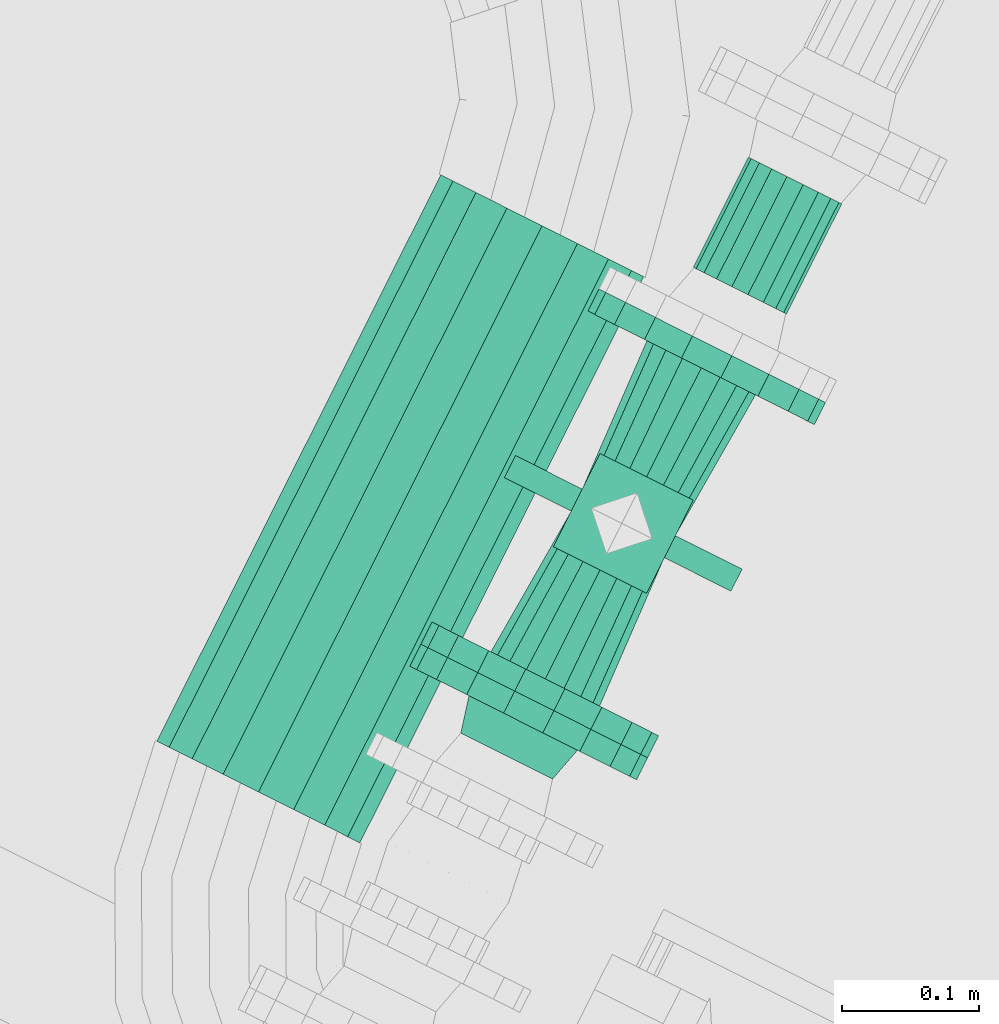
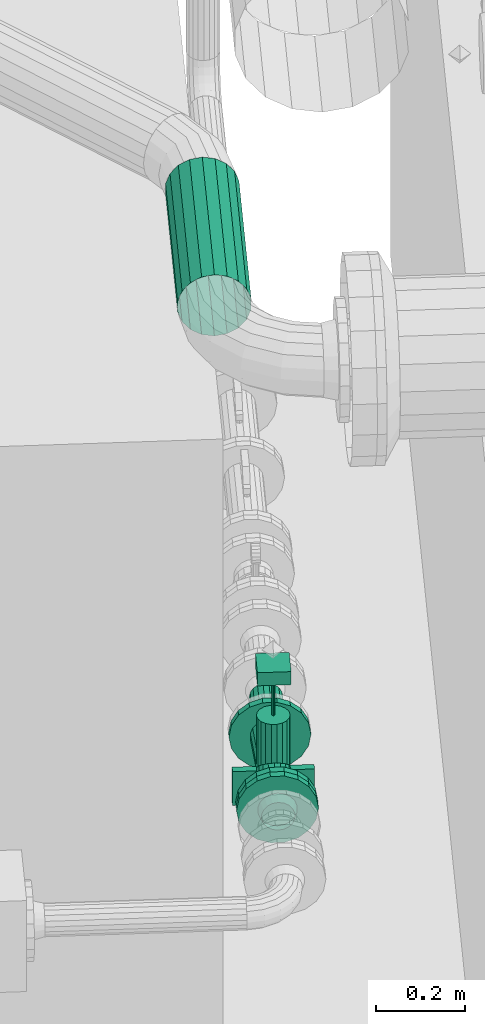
# One storey, part 107 of 206: 2 flow segments, 1 flow controller, 1 flow fitting.
"""IFC2X3 building model written with IfcOpenShell, lengths in metres."""

from ifc_helpers import new_model, si_unit, derived_unit, direction, frame, origin, place, context, subcontext, project, spatial, face_set, surface_model, source, transform, mapped, material, type_object, type_shapes, element, save


model = new_model("IFC2X3")

# Units and contexts
model_context = context("Model", 3, precision=5.2338327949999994e-05, world=origin(), true_north=direction((0.0, 1.0)))
body_context = subcontext(model_context, "Body", "Model", "MODEL_VIEW")
ifc_project = project(units=[si_unit("LENGTHUNIT", "METRE"), si_unit("AREAUNIT", "SQUARE_METRE"), si_unit("VOLUMEUNIT", "CUBIC_METRE"), si_unit("MASSUNIT", "GRAM", prefix="KILO"), si_unit("PLANEANGLEUNIT", "RADIAN"), derived_unit("THERMALTRANSMITTANCEUNIT", [(si_unit("MASSUNIT", "GRAM", prefix="KILO"), 1), (si_unit("THERMODYNAMICTEMPERATUREUNIT", "KELVIN"), -1), (si_unit("TIMEUNIT", "SECOND"), -3)])], contexts=[model_context])

# Site, building, storey
site_placement = place(None, frame((0.0, 0.0, 0.0), z_axis=(0.0, 0.0, 1.0), x_axis=(0.8939966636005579, -0.4480736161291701, 0.0)))
site = spatial("IfcSite", under=ifc_project, at=site_placement, Name="Default", CompositionType="ELEMENT")
building_placement = place(site_placement, origin())
building = spatial("IfcBuilding", under=site, at=building_placement, CompositionType="ELEMENT")
storey_placement = place(building_placement, origin())
storey = spatial("IfcBuildingStorey", under=building, at=storey_placement, Name="Erdgeschoss", CompositionType="ELEMENT", Elevation=0.0)

# Flow fitting
ifc_material_1 = material(Name="IfcSurfaceStyle #352577")
distribution_element_type_1 = type_object("IfcDistributionElementType", Name="Flansch 357927:Flansch 357927", material=ifc_material_1)
shared_shape_1 = source(origin(), body_context, "Body", "SurfaceModel", [
    surface_model("IfcFaceBasedSurfaceModel", [(22.356766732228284, 5.20295839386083, 0.9080499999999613), (22.36978059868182, 5.2029583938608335, 0.9057553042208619), (22.372157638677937, 5.229958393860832, 0.9122861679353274), (22.35676673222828, 5.229958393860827, 0.9149999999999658), (22.381224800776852, 5.2029583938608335, 0.899147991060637), (22.38569217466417, 5.229958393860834, 0.9044719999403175), (22.38971899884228, 5.202958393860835, 0.8890249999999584), (22.39573787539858, 5.229958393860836, 0.8924999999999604), (22.39423866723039, 5.202958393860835, 0.8766073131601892), (22.401083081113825, 5.229958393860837, 0.8778141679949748), (22.3942386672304, 5.202958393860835, 0.8633926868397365), (22.40108308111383, 5.229958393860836, 0.8621858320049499), (22.38971899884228, 5.202958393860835, 0.85097499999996), (22.39573787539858, 5.2299583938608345, 0.8474999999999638), (22.38122480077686, 5.2029583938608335, 0.8408520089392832), (22.38569217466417, 5.229958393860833, 0.835528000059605), (22.369780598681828, 5.2029583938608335, 0.8342446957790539), (22.372157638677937, 5.229958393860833, 0.8277138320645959), (22.356766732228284, 5.20295839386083, 0.8319499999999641), (22.356766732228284, 5.229958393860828, 0.8249999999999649), (22.34375286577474, 5.20295839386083, 0.8342446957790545), (22.341375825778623, 5.2299583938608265, 0.8277138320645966), (22.33230866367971, 5.202958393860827, 0.8408520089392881), (22.327841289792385, 5.229958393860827, 0.8355280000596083), (22.323814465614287, 5.202958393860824, 0.8509749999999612), (22.31779558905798, 5.229958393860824, 0.8474999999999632), (22.31929479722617, 5.202958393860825, 0.8633926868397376), (22.312450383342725, 5.229958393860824, 0.8621858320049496), (22.319294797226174, 5.2029583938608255, 0.8766073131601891), (22.31245038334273, 5.229958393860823, 0.8778141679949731), (22.323814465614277, 5.202958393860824, 0.8890249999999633), (22.317795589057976, 5.229958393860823, 0.8924999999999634), (22.33230866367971, 5.202958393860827, 0.8991479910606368), (22.327841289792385, 5.229958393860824, 0.9044719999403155), (22.343752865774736, 5.202958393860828, 0.9057553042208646), (22.341375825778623, 5.2299583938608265, 0.9122861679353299), (22.26426673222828, 5.229958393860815, 0.8699999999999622), (22.269845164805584, 5.229958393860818, 0.9016368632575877), (22.269845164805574, 5.247958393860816, 0.9016368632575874), (22.264266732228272, 5.247958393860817, 0.8699999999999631), (22.28590762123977, 5.2299583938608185, 0.9294578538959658), (22.285907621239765, 5.247958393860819, 0.9294578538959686), (22.310516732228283, 5.229958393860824, 0.9501073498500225), (22.310516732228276, 5.247958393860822, 0.9501073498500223), (22.34070427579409, 5.2299583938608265, 0.9610947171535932), (22.340704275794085, 5.247958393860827, 0.9610947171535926), (22.37282918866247, 5.229958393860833, 0.9610947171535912), (22.372829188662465, 5.2479583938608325, 0.9610947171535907), (22.403016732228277, 5.229958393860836, 0.9501073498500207), (22.403016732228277, 5.247958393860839, 0.95010734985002), (22.427625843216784, 5.22995839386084, 0.9294578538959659), (22.427625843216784, 5.24795839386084, 0.9294578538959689), (22.443688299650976, 5.2299583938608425, 0.9016368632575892), (22.443688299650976, 5.247958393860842, 0.901636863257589), (22.449266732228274, 5.229958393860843, 0.8699999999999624), (22.449266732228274, 5.247958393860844, 0.8699999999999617), (22.443688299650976, 5.229958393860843, 0.8383631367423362), (22.44368829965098, 5.247958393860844, 0.838363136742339), (22.427625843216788, 5.229958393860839, 0.810542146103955), (22.42762584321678, 5.247958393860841, 0.810542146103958), (22.403016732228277, 5.229958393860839, 0.7898926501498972), (22.403016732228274, 5.247958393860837, 0.7898926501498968), (22.372829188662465, 5.229958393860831, 0.7789052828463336), (22.372829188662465, 5.2479583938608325, 0.7789052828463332), (22.34070427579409, 5.229958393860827, 0.7789052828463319), (22.34070427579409, 5.247958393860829, 0.7789052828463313), (22.310516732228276, 5.229958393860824, 0.7898926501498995), (22.310516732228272, 5.247958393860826, 0.7898926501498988), (22.285907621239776, 5.229958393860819, 0.8105421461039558), (22.28590762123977, 5.24795839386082, 0.8105421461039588), (22.269845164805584, 5.229958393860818, 0.8383631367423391), (22.269845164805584, 5.247958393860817, 0.8383631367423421), (22.356766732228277, 5.229958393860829, 0.8699999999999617)], [face_set([[[0, 1, 2, 3]], [[1, 4, 5, 2]], [[4, 6, 7, 5]], [[6, 8, 9, 7]], [[8, 10, 11, 9]], [[10, 12, 13, 11]], [[12, 14, 15, 13]], [[14, 16, 17, 15]], [[16, 18, 19, 17]], [[18, 20, 21, 19]], [[20, 22, 23, 21]], [[22, 24, 25, 23]], [[24, 26, 27, 25]], [[26, 28, 29, 27]], [[28, 30, 31, 29]], [[30, 32, 33, 31]], [[32, 34, 35, 33]], [[34, 0, 3, 35]], [[36, 37, 38, 39]], [[37, 40, 41, 38]], [[40, 42, 43, 41]], [[42, 44, 45, 43]], [[44, 46, 47, 45]], [[46, 48, 49, 47]], [[48, 50, 51, 49]], [[50, 52, 53, 51]], [[52, 54, 55, 53]], [[54, 56, 57, 55]], [[56, 58, 59, 57]], [[58, 60, 61, 59]], [[60, 62, 63, 61]], [[62, 64, 65, 63]], [[64, 66, 67, 65]], [[66, 68, 69, 67]], [[68, 70, 71, 69]], [[70, 36, 39, 71]], [[72, 37, 36]], [[72, 40, 37]], [[72, 42, 40]], [[72, 44, 42]], [[72, 46, 44]], [[72, 48, 46]], [[72, 50, 48]], [[72, 52, 50]], [[72, 54, 52]], [[72, 56, 54]], [[72, 58, 56]], [[72, 60, 58]], [[72, 62, 60]], [[72, 64, 62]], [[72, 66, 64]], [[72, 68, 66]], [[72, 70, 68]], [[72, 36, 70]]])]),
])
type_shapes(distribution_element_type_1, [shared_shape_1])
flow_fitting_placement = place(storey_placement, origin())
element("IfcFlowFitting", 1, at=flow_fitting_placement, inside=storey, type_object=distribution_element_type_1, material=ifc_material_1, Name="Flansch", ObjectType="Flansch", context=body_context, shape_type="MappedRepresentation", body=[
    mapped(shared_shape_1, transform((0.0, 0.0, 0.0), scale=1.0)),
])

# Flow controller
distribution_element_type_2 = type_object("IfcDistributionElementType", Name="Schieber:Schieber", material=ifc_material_1)
shared_shape_2 = source(origin(), body_context, "Body", "SurfaceModel", [
    surface_model("IfcFaceBasedSurfaceModel", [(22.318716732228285, 5.4310083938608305, 1.1239999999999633), (22.318716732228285, 5.35490839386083, 1.1239999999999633), (22.394816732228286, 5.35490839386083, 1.1239999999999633), (22.394816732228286, 5.4310083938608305, 1.1239999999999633), (22.394816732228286, 5.35490839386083, 1.1599999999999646), (22.394816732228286, 5.4310083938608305, 1.1599999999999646), (22.318716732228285, 5.35490839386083, 1.1599999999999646), (22.318716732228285, 5.4310083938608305, 1.1599999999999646), (22.449266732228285, 5.537958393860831, 0.8699999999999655), (22.44368829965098, 5.537958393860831, 0.9016368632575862), (22.44368829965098, 5.519958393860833, 0.9016368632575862), (22.449266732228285, 5.519958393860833, 0.8699999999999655), (22.427625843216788, 5.537958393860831, 0.9294578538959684), (22.427625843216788, 5.519958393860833, 0.9294578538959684), (22.40301673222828, 5.537958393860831, 0.9501073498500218), (22.40301673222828, 5.519958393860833, 0.9501073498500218), (22.372829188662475, 5.537958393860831, 0.961094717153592), (22.372829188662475, 5.519958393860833, 0.961094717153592), (22.340704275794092, 5.537958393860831, 0.9610947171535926), (22.340704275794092, 5.519958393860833, 0.9610947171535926), (22.310516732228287, 5.537958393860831, 0.9501073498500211), (22.310516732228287, 5.519958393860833, 0.9501073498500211), (22.28590762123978, 5.537958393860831, 0.9294578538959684), (22.28590762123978, 5.519958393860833, 0.9294578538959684), (22.269845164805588, 5.537958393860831, 0.9016368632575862), (22.269845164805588, 5.519958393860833, 0.9016368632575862), (22.264266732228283, 5.537958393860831, 0.8699999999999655), (22.264266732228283, 5.519958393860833, 0.8699999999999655), (22.269845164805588, 5.537958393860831, 0.8383631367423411), (22.269845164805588, 5.519958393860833, 0.8383631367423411), (22.28590762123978, 5.537958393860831, 0.8105421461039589), (22.28590762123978, 5.519958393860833, 0.8105421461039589), (22.310516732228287, 5.537958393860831, 0.7898926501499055), (22.310516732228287, 5.519958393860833, 0.7898926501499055), (22.340704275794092, 5.537958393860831, 0.7789052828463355), (22.340704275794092, 5.519958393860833, 0.7789052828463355), (22.372829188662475, 5.537958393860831, 0.7789052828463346), (22.372829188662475, 5.519958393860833, 0.7789052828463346), (22.40301673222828, 5.537958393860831, 0.7898926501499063), (22.40301673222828, 5.519958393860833, 0.7898926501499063), (22.427625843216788, 5.537958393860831, 0.8105421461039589), (22.427625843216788, 5.519958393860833, 0.8105421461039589), (22.44368829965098, 5.537958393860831, 0.8383631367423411), (22.44368829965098, 5.519958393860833, 0.8383631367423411), (22.356766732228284, 5.53795839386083, 0.8699999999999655), (22.356766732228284, 5.519958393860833, 0.8699999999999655), (22.356766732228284, 5.519958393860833, 0.8249999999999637), (22.37215763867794, 5.519958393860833, 0.827713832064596), (22.369780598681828, 5.392958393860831, 0.834244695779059), (22.356766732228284, 5.392958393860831, 0.8319499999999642), (22.38569217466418, 5.519958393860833, 0.8355280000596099), (22.38122480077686, 5.392958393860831, 0.8408520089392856), (22.395737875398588, 5.519958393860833, 0.8474999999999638), (22.38971899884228, 5.392958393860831, 0.8509749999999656), (22.401083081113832, 5.519958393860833, 0.8621858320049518), (22.3942386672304, 5.392958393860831, 0.8633926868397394), (22.401083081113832, 5.519958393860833, 0.8778141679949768), (22.3942386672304, 5.392958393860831, 0.8766073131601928), (22.395737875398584, 5.519958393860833, 0.8924999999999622), (22.38971899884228, 5.392958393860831, 0.8890249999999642), (22.38569217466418, 5.519958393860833, 0.9044719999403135), (22.38122480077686, 5.392958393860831, 0.8991479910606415), (22.37215763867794, 5.519958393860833, 0.9122861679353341), (22.36978059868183, 5.392958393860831, 0.9057553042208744), (22.356766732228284, 5.519958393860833, 0.9149999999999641), (22.356766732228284, 5.392958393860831, 0.9080499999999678), (22.341375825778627, 5.519958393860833, 0.9122861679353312), (22.34375286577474, 5.392958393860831, 0.9057553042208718), (22.32784128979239, 5.519958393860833, 0.904471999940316), (22.33230866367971, 5.392958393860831, 0.899147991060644), (22.317795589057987, 5.519958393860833, 0.8924999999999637), (22.323814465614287, 5.392958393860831, 0.8890249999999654), (22.312450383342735, 5.519958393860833, 0.8778141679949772), (22.31929479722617, 5.392958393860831, 0.8766073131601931), (22.312450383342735, 5.519958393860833, 0.8621858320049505), (22.31929479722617, 5.392958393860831, 0.8633926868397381), (22.317795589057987, 5.519958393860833, 0.8474999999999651), (22.323814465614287, 5.392958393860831, 0.8509749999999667), (22.32784128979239, 5.519958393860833, 0.8355280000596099), (22.33230866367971, 5.392958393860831, 0.8408520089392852), (22.341375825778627, 5.519958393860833, 0.8277138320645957), (22.34375286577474, 5.392958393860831, 0.834244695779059), (22.37215763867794, 5.265958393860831, 0.8277138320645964), (22.356766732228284, 5.265958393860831, 0.8249999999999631), (22.38569217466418, 5.265958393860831, 0.8355280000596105), (22.39573787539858, 5.265958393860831, 0.8474999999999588), (22.401083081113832, 5.265958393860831, 0.8621858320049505), (22.401083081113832, 5.265958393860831, 0.8778141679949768), (22.39573787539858, 5.265958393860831, 0.8924999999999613), (22.385692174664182, 5.265958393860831, 0.9044719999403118), (22.37215763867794, 5.265958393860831, 0.9122861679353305), (22.356766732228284, 5.265958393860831, 0.9149999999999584), (22.341375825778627, 5.265958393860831, 0.9122861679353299), (22.32784128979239, 5.265958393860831, 0.9044719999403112), (22.317795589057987, 5.265958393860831, 0.8924999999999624), (22.312450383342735, 5.265958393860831, 0.8778141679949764), (22.312450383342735, 5.265958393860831, 0.8621858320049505), (22.317795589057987, 5.265958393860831, 0.8474999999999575), (22.32784128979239, 5.265958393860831, 0.8355280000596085), (22.341375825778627, 5.265958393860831, 0.8277138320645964), (22.449266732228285, 5.265958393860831, 0.8699999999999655), (22.44368829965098, 5.265958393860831, 0.9016368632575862), (22.44368829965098, 5.247958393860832, 0.9016368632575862), (22.449266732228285, 5.247958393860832, 0.8699999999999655), (22.427625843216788, 5.265958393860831, 0.9294578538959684), (22.427625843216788, 5.247958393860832, 0.9294578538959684), (22.40301673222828, 5.265958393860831, 0.9501073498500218), (22.40301673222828, 5.247958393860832, 0.9501073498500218), (22.372829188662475, 5.265958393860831, 0.961094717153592), (22.372829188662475, 5.247958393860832, 0.961094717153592), (22.340704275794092, 5.265958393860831, 0.9610947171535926), (22.340704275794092, 5.247958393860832, 0.9610947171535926), (22.310516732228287, 5.265958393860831, 0.9501073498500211), (22.310516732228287, 5.247958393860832, 0.9501073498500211), (22.28590762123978, 5.265958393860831, 0.9294578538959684), (22.28590762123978, 5.247958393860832, 0.9294578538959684), (22.269845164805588, 5.265958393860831, 0.9016368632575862), (22.269845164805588, 5.247958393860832, 0.9016368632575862), (22.264266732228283, 5.265958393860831, 0.8699999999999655), (22.264266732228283, 5.247958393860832, 0.8699999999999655), (22.269845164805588, 5.265958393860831, 0.8383631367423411), (22.269845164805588, 5.247958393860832, 0.8383631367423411), (22.28590762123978, 5.265958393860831, 0.8105421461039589), (22.28590762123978, 5.247958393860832, 0.8105421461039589), (22.310516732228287, 5.265958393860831, 0.7898926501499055), (22.310516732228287, 5.247958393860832, 0.7898926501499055), (22.340704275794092, 5.265958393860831, 0.7789052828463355), (22.340704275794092, 5.247958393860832, 0.7789052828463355), (22.372829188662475, 5.265958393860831, 0.7789052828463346), (22.372829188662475, 5.247958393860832, 0.7789052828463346), (22.40301673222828, 5.265958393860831, 0.7898926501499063), (22.40301673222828, 5.247958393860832, 0.7898926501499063), (22.427625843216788, 5.265958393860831, 0.8105421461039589), (22.427625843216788, 5.247958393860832, 0.8105421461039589), (22.44368829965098, 5.265958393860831, 0.8383631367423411), (22.44368829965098, 5.247958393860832, 0.8383631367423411), (22.356766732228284, 5.265958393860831, 0.8699999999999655), (22.356766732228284, 5.247958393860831, 0.8699999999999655), (22.39481673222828, 5.39295839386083, 0.869999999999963), (22.392522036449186, 5.405972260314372, 0.869999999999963), (22.392522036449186, 5.405972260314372, 1.0160249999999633), (22.39481673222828, 5.39295839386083, 1.0160249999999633), (22.385914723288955, 5.417416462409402, 0.869999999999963), (22.385914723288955, 5.417416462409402, 1.0160249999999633), (22.375791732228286, 5.4259106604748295, 0.869999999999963), (22.375791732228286, 5.4259106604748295, 1.0160249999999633), (22.36337404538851, 5.430430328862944, 0.869999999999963), (22.36337404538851, 5.430430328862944, 1.0160249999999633), (22.350159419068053, 5.430430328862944, 0.869999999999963), (22.350159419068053, 5.430430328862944, 1.0160249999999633), (22.33774173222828, 5.4259106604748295, 0.869999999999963), (22.33774173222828, 5.4259106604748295, 1.0160249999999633), (22.32761874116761, 5.417416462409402, 0.869999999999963), (22.32761874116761, 5.417416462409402, 1.0160249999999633), (22.32101142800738, 5.405972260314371, 0.869999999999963), (22.32101142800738, 5.405972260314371, 1.0160249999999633), (22.31871673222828, 5.39295839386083, 0.869999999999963), (22.31871673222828, 5.39295839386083, 1.0160249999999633), (22.321011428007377, 5.379944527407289, 0.869999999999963), (22.321011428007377, 5.379944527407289, 1.0160249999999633), (22.32761874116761, 5.36850032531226, 0.869999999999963), (22.32761874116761, 5.36850032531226, 1.0160249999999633), (22.33774173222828, 5.360006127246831, 0.869999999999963), (22.33774173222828, 5.360006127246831, 1.0160249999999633), (22.350159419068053, 5.3554864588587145, 0.869999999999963), (22.350159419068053, 5.3554864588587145, 1.0160249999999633), (22.36337404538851, 5.355486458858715, 0.869999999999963), (22.36337404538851, 5.355486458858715, 1.0160249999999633), (22.375791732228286, 5.360006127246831, 0.869999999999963), (22.375791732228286, 5.360006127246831, 1.0160249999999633), (22.385914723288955, 5.368500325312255, 0.869999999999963), (22.385914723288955, 5.368500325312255, 1.0160249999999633), (22.392522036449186, 5.379944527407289, 0.869999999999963), (22.392522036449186, 5.379944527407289, 1.0160249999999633), (22.356766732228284, 5.392958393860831, 0.8699999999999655), (22.356766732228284, 5.39295839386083, 1.016024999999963), (22.36057173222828, 5.3929583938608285, 1.0160249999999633), (22.359457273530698, 5.395648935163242, 1.0160249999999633), (22.359457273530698, 5.395648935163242, 1.1239999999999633), (22.36057173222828, 5.3929583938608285, 1.1239999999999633), (22.356766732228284, 5.396763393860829, 1.0160249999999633), (22.356766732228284, 5.396763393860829, 1.1239999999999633), (22.35407619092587, 5.395648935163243, 1.0160249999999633), (22.35407619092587, 5.395648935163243, 1.1239999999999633), (22.352961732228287, 5.3929583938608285, 1.0160249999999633), (22.352961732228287, 5.392958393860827, 1.1239999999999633), (22.35407619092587, 5.390267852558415, 1.0160249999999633), (22.35407619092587, 5.390267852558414, 1.1239999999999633), (22.356766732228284, 5.3891533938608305, 1.0160249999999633), (22.356766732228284, 5.3891533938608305, 1.1239999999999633), (22.359457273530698, 5.390267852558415, 1.0160249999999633), (22.359457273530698, 5.390267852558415, 1.1239999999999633), (22.356766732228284, 5.39295839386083, 1.1239999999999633), (22.264266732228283, 5.401958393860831, 0.7774999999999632), (22.264266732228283, 5.38395839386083, 0.7774999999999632), (22.449266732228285, 5.38395839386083, 0.7774999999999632), (22.449266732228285, 5.401958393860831, 0.7774999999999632), (22.449266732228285, 5.38395839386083, 0.869999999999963), (22.449266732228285, 5.401958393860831, 0.869999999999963), (22.264266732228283, 5.38395839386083, 0.869999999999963), (22.264266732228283, 5.401958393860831, 0.869999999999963)], [face_set([[[0, 1, 2, 3]], [[3, 2, 4, 5]], [[5, 4, 6, 7]], [[7, 6, 1, 0]], [[0, 3, 5, 7]], [[6, 4, 2, 1]], [[8, 9, 10, 11]], [[9, 12, 13, 10]], [[12, 14, 15, 13]], [[14, 16, 17, 15]], [[16, 18, 19, 17]], [[18, 20, 21, 19]], [[20, 22, 23, 21]], [[22, 24, 25, 23]], [[24, 26, 27, 25]], [[26, 28, 29, 27]], [[28, 30, 31, 29]], [[30, 32, 33, 31]], [[32, 34, 35, 33]], [[34, 36, 37, 35]], [[36, 38, 39, 37]], [[38, 40, 41, 39]], [[40, 42, 43, 41]], [[42, 8, 11, 43]], [[44, 9, 8]], [[44, 12, 9]], [[44, 14, 12]], [[44, 16, 14]], [[44, 18, 16]], [[44, 20, 18]], [[44, 22, 20]], [[44, 24, 22]], [[44, 26, 24]], [[44, 28, 26]], [[44, 30, 28]], [[44, 32, 30]], [[44, 34, 32]], [[44, 36, 34]], [[44, 38, 36]], [[44, 40, 38]], [[44, 42, 40]], [[44, 8, 42]], [[45, 43, 11]], [[45, 41, 43]], [[45, 39, 41]], [[45, 37, 39]], [[45, 35, 37]], [[45, 33, 35]], [[45, 31, 33]], [[45, 29, 31]], [[45, 27, 29]], [[45, 25, 27]], [[45, 23, 25]], [[45, 21, 23]], [[45, 19, 21]], [[45, 17, 19]], [[45, 15, 17]], [[45, 13, 15]], [[45, 10, 13]], [[45, 11, 10]], [[46, 47, 48, 49]], [[47, 50, 51, 48]], [[50, 52, 53, 51]], [[52, 54, 55, 53]], [[54, 56, 57, 55]], [[56, 58, 59, 57]], [[58, 60, 61, 59]], [[60, 62, 63, 61]], [[62, 64, 65, 63]], [[64, 66, 67, 65]], [[66, 68, 69, 67]], [[68, 70, 71, 69]], [[70, 72, 73, 71]], [[72, 74, 75, 73]], [[74, 76, 77, 75]], [[76, 78, 79, 77]], [[78, 80, 81, 79]], [[80, 46, 49, 81]], [[49, 48, 82, 83]], [[48, 51, 84, 82]], [[51, 53, 85, 84]], [[53, 55, 86, 85]], [[55, 57, 87, 86]], [[57, 59, 88, 87]], [[59, 61, 89, 88]], [[61, 63, 90, 89]], [[63, 65, 91, 90]], [[65, 67, 92, 91]], [[67, 69, 93, 92]], [[69, 71, 94, 93]], [[71, 73, 95, 94]], [[73, 75, 96, 95]], [[75, 77, 97, 96]], [[77, 79, 98, 97]], [[79, 81, 99, 98]], [[81, 49, 83, 99]], [[100, 101, 102, 103]], [[101, 104, 105, 102]], [[104, 106, 107, 105]], [[106, 108, 109, 107]], [[108, 110, 111, 109]], [[110, 112, 113, 111]], [[112, 114, 115, 113]], [[114, 116, 117, 115]], [[116, 118, 119, 117]], [[118, 120, 121, 119]], [[120, 122, 123, 121]], [[122, 124, 125, 123]], [[124, 126, 127, 125]], [[126, 128, 129, 127]], [[128, 130, 131, 129]], [[130, 132, 133, 131]], [[132, 134, 135, 133]], [[134, 100, 103, 135]], [[136, 101, 100]], [[136, 104, 101]], [[136, 106, 104]], [[136, 108, 106]], [[136, 110, 108]], [[136, 112, 110]], [[136, 114, 112]], [[136, 116, 114]], [[136, 118, 116]], [[136, 120, 118]], [[136, 122, 120]], [[136, 124, 122]], [[136, 126, 124]], [[136, 128, 126]], [[136, 130, 128]], [[136, 132, 130]], [[136, 134, 132]], [[136, 100, 134]], [[137, 135, 103]], [[137, 133, 135]], [[137, 131, 133]], [[137, 129, 131]], [[137, 127, 129]], [[137, 125, 127]], [[137, 123, 125]], [[137, 121, 123]], [[137, 119, 121]], [[137, 117, 119]], [[137, 115, 117]], [[137, 113, 115]], [[137, 111, 113]], [[137, 109, 111]], [[137, 107, 109]], [[137, 105, 107]], [[137, 102, 105]], [[137, 103, 102]], [[138, 139, 140, 141]], [[139, 142, 143, 140]], [[142, 144, 145, 143]], [[144, 146, 147, 145]], [[146, 148, 149, 147]], [[148, 150, 151, 149]], [[150, 152, 153, 151]], [[152, 154, 155, 153]], [[154, 156, 157, 155]], [[156, 158, 159, 157]], [[158, 160, 161, 159]], [[160, 162, 163, 161]], [[162, 164, 165, 163]], [[164, 166, 167, 165]], [[166, 168, 169, 167]], [[168, 170, 171, 169]], [[170, 172, 173, 171]], [[172, 138, 141, 173]], [[174, 139, 138]], [[174, 142, 139]], [[174, 144, 142]], [[174, 146, 144]], [[174, 148, 146]], [[174, 150, 148]], [[174, 152, 150]], [[174, 154, 152]], [[174, 156, 154]], [[174, 158, 156]], [[174, 160, 158]], [[174, 162, 160]], [[174, 164, 162]], [[174, 166, 164]], [[174, 168, 166]], [[174, 170, 168]], [[174, 172, 170]], [[174, 138, 172]], [[175, 173, 141]], [[175, 171, 173]], [[175, 169, 171]], [[175, 167, 169]], [[175, 165, 167]], [[175, 163, 165]], [[175, 161, 163]], [[175, 159, 161]], [[175, 157, 159]], [[175, 155, 157]], [[175, 153, 155]], [[175, 151, 153]], [[175, 149, 151]], [[175, 147, 149]], [[175, 145, 147]], [[175, 143, 145]], [[175, 140, 143]], [[175, 141, 140]], [[176, 177, 178, 179]], [[177, 180, 181, 178]], [[180, 182, 183, 181]], [[182, 184, 185, 183]], [[184, 186, 187, 185]], [[186, 188, 189, 187]], [[188, 190, 191, 189]], [[190, 176, 179, 191]], [[192, 191, 179]], [[192, 189, 191]], [[192, 187, 189]], [[192, 185, 187]], [[192, 183, 185]], [[192, 181, 183]], [[192, 178, 181]], [[192, 179, 178]], [[193, 194, 195, 196]], [[196, 195, 197, 198]], [[198, 197, 199, 200]], [[200, 199, 194, 193]], [[193, 196, 198, 200]], [[199, 197, 195, 194]]])]),
])
type_shapes(distribution_element_type_2, [shared_shape_2])
flow_controller_placement = place(storey_placement, origin())
element("IfcFlowController", 2, at=flow_controller_placement, inside=storey, type_object=distribution_element_type_2, material=ifc_material_1, Name="Schieber", ObjectType="Schieber", context=body_context, shape_type="MappedRepresentation", body=[
    mapped(shared_shape_2, transform((0.0, 0.0, 0.0), scale=1.0)),
])

# Flow segments
distribution_element_type_3 = type_object("IfcDistributionElementType", Name="Stahlrohr nach DIN 2448 358666:Stahlrohr nach DIN 2448 358666", material=ifc_material_1)
shared_shape_3 = source(origin(), body_context, "Body", "SurfaceModel", [
    surface_model("IfcFaceBasedSurfaceModel", [(22.39481673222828, 5.672958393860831, 0.8699999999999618), (22.392522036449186, 5.672958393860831, 0.8830138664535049), (22.392522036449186, 5.582958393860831, 0.8830138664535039), (22.39481673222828, 5.582958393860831, 0.8699999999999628), (22.385914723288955, 5.672958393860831, 0.8944580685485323), (22.385914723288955, 5.582958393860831, 0.8944580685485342), (22.375791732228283, 5.672958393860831, 0.902952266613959), (22.375791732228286, 5.582958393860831, 0.902952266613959), (22.36337404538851, 5.672958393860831, 0.9074719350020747), (22.36337404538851, 5.582958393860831, 0.9074719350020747), (22.350159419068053, 5.672958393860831, 0.9074719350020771), (22.350159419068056, 5.582958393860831, 0.9074719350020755), (22.33774173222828, 5.672958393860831, 0.9029522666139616), (22.33774173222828, 5.582958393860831, 0.9029522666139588), (22.327618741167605, 5.672958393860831, 0.8944580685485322), (22.32761874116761, 5.582958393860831, 0.8944580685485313), (22.321011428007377, 5.672958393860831, 0.8830138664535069), (22.321011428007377, 5.582958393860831, 0.8830138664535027), (22.31871673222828, 5.672958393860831, 0.8699999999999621), (22.318716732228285, 5.582958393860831, 0.8699999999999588), (22.321011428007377, 5.672958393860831, 0.856986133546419), (22.32101142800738, 5.582958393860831, 0.8569861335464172), (22.327618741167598, 5.672958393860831, 0.8455419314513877), (22.327618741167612, 5.582958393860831, 0.8455419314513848), (22.33774173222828, 5.672958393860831, 0.8370477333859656), (22.33774173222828, 5.582958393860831, 0.8370477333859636), (22.350159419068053, 5.672958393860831, 0.8325280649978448), (22.350159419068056, 5.582958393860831, 0.8325280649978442), (22.36337404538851, 5.672958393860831, 0.8325280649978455), (22.363374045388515, 5.582958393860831, 0.8325280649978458), (22.375791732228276, 5.672958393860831, 0.8370477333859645), (22.37579173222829, 5.582958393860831, 0.837047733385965), (22.385914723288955, 5.672958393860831, 0.8455419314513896), (22.38591472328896, 5.582958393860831, 0.84554193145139), (22.392522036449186, 5.672958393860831, 0.8569861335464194), (22.392522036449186, 5.582958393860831, 0.8569861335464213)], [face_set([[[0, 1, 2, 3]], [[1, 4, 5, 2]], [[4, 6, 7, 5]], [[6, 8, 9, 7]], [[8, 10, 11, 9]], [[10, 12, 13, 11]], [[12, 14, 15, 13]], [[14, 16, 17, 15]], [[16, 18, 19, 17]], [[18, 20, 21, 19]], [[20, 22, 23, 21]], [[22, 24, 25, 23]], [[24, 26, 27, 25]], [[26, 28, 29, 27]], [[28, 30, 31, 29]], [[30, 32, 33, 31]], [[32, 34, 35, 33]], [[34, 0, 3, 35]]])]),
])
type_shapes(distribution_element_type_3, [shared_shape_3])
flow_segment_1_placement = place(storey_placement, origin())
element("IfcFlowSegment", 3, at=flow_segment_1_placement, inside=storey, type_object=distribution_element_type_3, material=ifc_material_1, Name="Stahlrohr nach DIN 2448", ObjectType="Stahlrohr nach DIN 2448", context=body_context, shape_type="MappedRepresentation", body=[
    mapped(shared_shape_3, transform((0.0, 0.0, 0.0), scale=1.0)),
])
ifc_material_2 = material(Name="IfcSurfaceStyle #9317")
distribution_element_type_4 = type_object("IfcDistributionElementType", Name="Stahlrohr nach DIN 2448 848518:Stahlrohr nach DIN 2448 848518", material=ifc_material_2)
shared_shape_4 = source(origin(), body_context, "Body", "SurfaceModel", [
    surface_model("IfcFaceBasedSurfaceModel", [(22.20652487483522, 5.560674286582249, 2.269850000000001), (22.23530586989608, 5.560674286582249, 2.2749248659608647), (22.23530586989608, 5.098312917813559, 2.2749248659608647), (22.206524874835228, 5.098312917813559, 2.2698500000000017), (22.260615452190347, 5.560674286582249, 2.2895373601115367), (22.260615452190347, 5.098312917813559, 2.2895373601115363), (22.279400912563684, 5.560674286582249, 2.311925), (22.279400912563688, 5.098312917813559, 2.3119250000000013), (22.289396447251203, 5.560674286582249, 2.339387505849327), (22.28939644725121, 5.098312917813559, 2.339387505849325), (22.289396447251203, 5.560674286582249, 2.3686124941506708), (22.289396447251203, 5.098312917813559, 2.3686124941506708), (22.279400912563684, 5.560674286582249, 2.3960749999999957), (22.279400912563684, 5.098312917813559, 2.3960749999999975), (22.260615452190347, 5.560674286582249, 2.418462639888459), (22.260615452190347, 5.098312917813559, 2.4184626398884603), (22.23530586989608, 5.560674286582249, 2.433075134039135), (22.23530586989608, 5.098312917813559, 2.433075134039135), (22.20652487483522, 5.560674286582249, 2.4381500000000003), (22.206524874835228, 5.0983129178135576, 2.43815), (22.17774387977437, 5.560674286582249, 2.433075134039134), (22.177743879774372, 5.0983129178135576, 2.4330751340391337), (22.152434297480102, 5.560674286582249, 2.418462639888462), (22.152434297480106, 5.098312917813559, 2.418462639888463), (22.13364883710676, 5.560674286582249, 2.396075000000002), (22.133648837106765, 5.098312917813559, 2.396075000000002), (22.123653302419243, 5.560674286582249, 2.368612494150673), (22.123653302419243, 5.098312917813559, 2.368612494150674), (22.123653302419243, 5.560674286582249, 2.339387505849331), (22.123653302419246, 5.098312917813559, 2.33938750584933), (22.133648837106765, 5.560674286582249, 2.311925), (22.133648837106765, 5.098312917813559, 2.311925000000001), (22.152434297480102, 5.560674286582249, 2.2895373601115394), (22.152434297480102, 5.098312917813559, 2.28953736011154), (22.177743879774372, 5.560674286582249, 2.2749248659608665), (22.177743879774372, 5.098312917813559, 2.2749248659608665)], [face_set([[[0, 1, 2, 3]], [[1, 4, 5, 2]], [[4, 6, 7, 5]], [[6, 8, 9, 7]], [[8, 10, 11, 9]], [[10, 12, 13, 11]], [[12, 14, 15, 13]], [[14, 16, 17, 15]], [[16, 18, 19, 17]], [[18, 20, 21, 19]], [[20, 22, 23, 21]], [[22, 24, 25, 23]], [[24, 26, 27, 25]], [[26, 28, 29, 27]], [[28, 30, 31, 29]], [[30, 32, 33, 31]], [[32, 34, 35, 33]], [[34, 0, 3, 35]]])]),
])
type_shapes(distribution_element_type_4, [shared_shape_4])
flow_segment_2_placement = place(storey_placement, origin())
element("IfcFlowSegment", 4, at=flow_segment_2_placement, inside=storey, type_object=distribution_element_type_4, material=ifc_material_2, Name="Stahlrohr nach DIN 2448", ObjectType="Stahlrohr nach DIN 2448", context=body_context, shape_type="MappedRepresentation", body=[
    mapped(shared_shape_4, transform((0.0, 0.0, 0.0), scale=1.0)),
])

save(model, "model.ifc")
